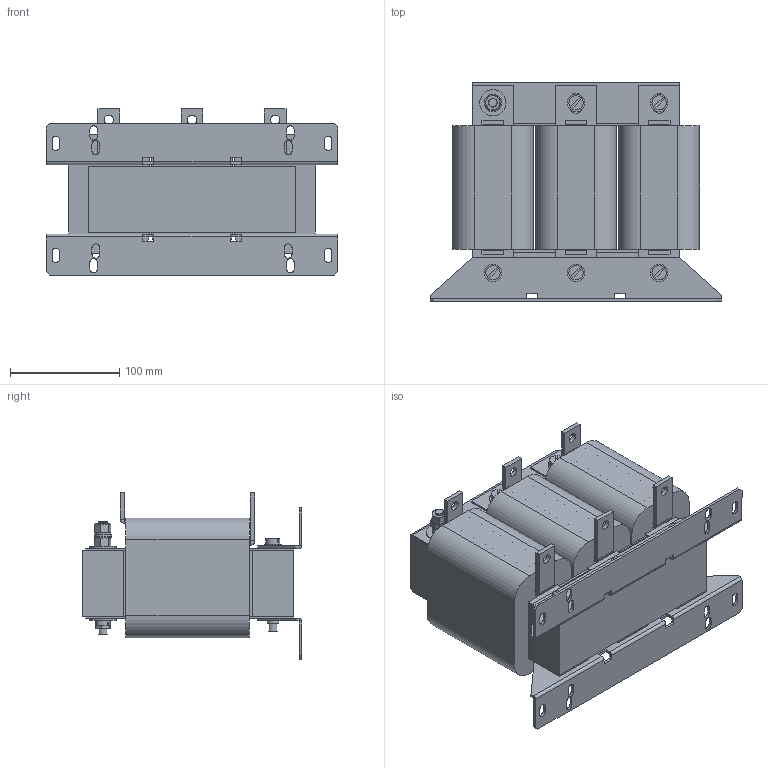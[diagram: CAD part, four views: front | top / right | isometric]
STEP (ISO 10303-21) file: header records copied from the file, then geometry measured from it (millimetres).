
FILE_DESCRIPTION (( 'STEP AP214' ), '1' );
FILE_NAME ('PCT-115.STEP', '2015-04-29T10:25:49', ( 'EDV' ), ( 'Microsoft' ), 'SwSTEP 2.0', 'SolidWorks 2014', '' );
FILE_SCHEMA (( 'AUTOMOTIVE_DESIGN' ));
Length unit declared in the file: millimetre
Products named in the file (18): hex nut gradec_din_Hexagon Nut ISO 4034 - M8 - N; plain washer grade a_din_Washer DIN 125 - A 8.4; M8x80-DIN84; #700-0093; #700-0092; D57; #040-0840a; #040-0836a; #143-0002; Wickel f黵 LR3 40-3_63; Joch 3UI 114-60,5; Luftspalt 190x60,5x1,5mm; Luftspalt 190x60,5x2mm; curved spring lock washer_din_Spring washer DIN 128 - A8; PCT-115; M8x90-DIN84; plain washer large_din_Washer DIN 9021 - 8.4
Assembly tree (46 placements, depth 2):
  PCT-115
    Joch 3UI 114-60,5
    Luftspalt 190x60,5x2mm
    Luftspalt 190x60,5x1,5mm
    Joch 3UI 114-60,5
    Wickel f黵 LR3 40-3_63  x3
    #143-0002  x3
    #040-0836a
    #040-0840a
    D57  x6
    #700-0092  x3
    #700-0093  x3
    M8x80-DIN84  x5
    plain washer grade a_din_Washer DIN 125 - A 8.4  x9
    hex nut gradec_din_Hexagon Nut ISO 4034 - M8 - N  x4
    plain washer large_din_Washer DIN 9021 - 8.4  x2
    M8x90-DIN84
    curved spring lock washer_din_Spring washer DIN 128 - A8
Bounding box: 267 x 201 x 152 mm (x, y, z)
Volume: 3730779.3 mm3; surface area: 668567.2 mm2
Topology: 46 solids, 46 shells, 858 faces, 2081 edges, 1337 vertices
Faces by surface type: plane 624, cylinder 148, cone 62, bspline 22, torus 2
Full cylindrical faces by diameter (mm): 4.168 x1, 6.8 x4, 7.4 x3, 8 x10, 8.4 x11, 8.5 x6, 10.5 x6, 11 x12, 13 x6, 16 x9, 24 x2
Entity records: 19072 total; most frequent: CARTESIAN_POINT 4506, ORIENTED_EDGE 2786, DIRECTION 2670, EDGE_CURVE 1393, LINE 1136, VECTOR 1136, VERTEX_POINT 923, AXIS2_PLACEMENT_3D 767
